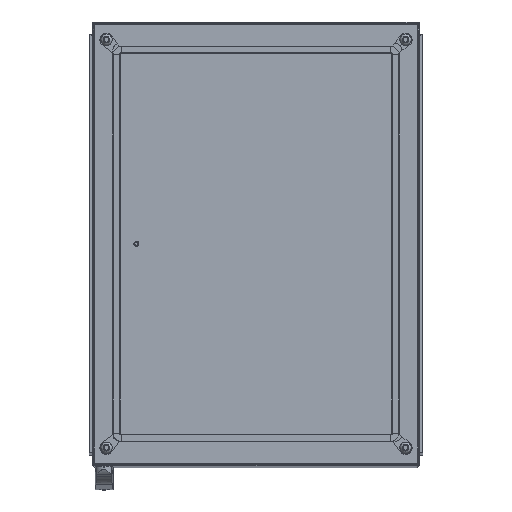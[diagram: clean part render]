
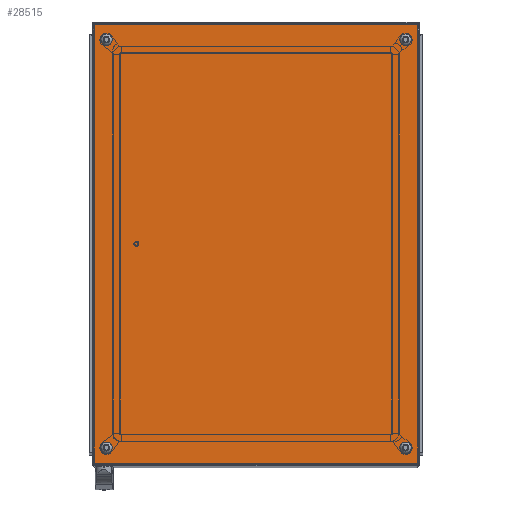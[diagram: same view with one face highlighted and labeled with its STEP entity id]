
A CAD part, top view. The second image highlights one B-rep face of the part: STEP entity #28515.
In plain terms, the highlighted planar face has unit normal (0, 0, 1).
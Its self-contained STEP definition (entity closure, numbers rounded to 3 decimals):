
#1393=CIRCLE('',#30596,6.);
#1394=CIRCLE('',#30597,6.);
#1395=CIRCLE('',#30598,6.);
#1396=CIRCLE('',#30599,6.);
#5245=ORIENTED_EDGE('',*,*,#12095,.F.);
#5246=ORIENTED_EDGE('',*,*,#12096,.F.);
#5247=ORIENTED_EDGE('',*,*,#12097,.F.);
#5248=ORIENTED_EDGE('',*,*,#12098,.F.);
#5249=ORIENTED_EDGE('',*,*,#12084,.T.);
#5250=ORIENTED_EDGE('',*,*,#12092,.T.);
#5251=ORIENTED_EDGE('',*,*,#12055,.F.);
#5252=ORIENTED_EDGE('',*,*,#12099,.F.);
#12055=EDGE_CURVE('',#15715,#15716,#18567,.T.);
#12084=EDGE_CURVE('',#15737,#15736,#18573,.T.);
#12092=EDGE_CURVE('',#15736,#15716,#18578,.T.);
#12095=EDGE_CURVE('',#15738,#15738,#1393,.T.);
#12096=EDGE_CURVE('',#15739,#15739,#1394,.T.);
#12097=EDGE_CURVE('',#15740,#15740,#1395,.T.);
#12098=EDGE_CURVE('',#15741,#15741,#1396,.T.);
#12099=EDGE_CURVE('',#15737,#15715,#18581,.T.);
#15715=VERTEX_POINT('',#44399);
#15716=VERTEX_POINT('',#44401);
#15736=VERTEX_POINT('',#44475);
#15737=VERTEX_POINT('',#44477);
#15738=VERTEX_POINT('',#44494);
#15739=VERTEX_POINT('',#44496);
#15740=VERTEX_POINT('',#44498);
#15741=VERTEX_POINT('',#44500);
#18567=LINE('',#44400,#21044);
#18573=LINE('',#44476,#21050);
#18578=LINE('',#44488,#21055);
#18581=LINE('',#44501,#21058);
#21044=VECTOR('',#35558,1000.);
#21050=VECTOR('',#35612,1000.);
#21055=VECTOR('',#35629,1000.);
#21058=VECTOR('',#35644,1000.);
#23219=EDGE_LOOP('',(#5245));
#23220=EDGE_LOOP('',(#5246));
#23221=EDGE_LOOP('',(#5247));
#23222=EDGE_LOOP('',(#5248));
#23223=EDGE_LOOP('',(#5249,#5250,#5251,#5252));
#25566=FACE_BOUND('',#23219,.T.);
#25567=FACE_BOUND('',#23220,.T.);
#25568=FACE_BOUND('',#23221,.T.);
#25569=FACE_BOUND('',#23222,.T.);
#25570=FACE_BOUND('',#23223,.T.);
#27570=PLANE('',#30595);
#28515=ADVANCED_FACE('',(#25566,#25567,#25568,#25569,#25570),#27570,.T.);
#30595=AXIS2_PLACEMENT_3D('',#44492,#35634,#35635);
#30596=AXIS2_PLACEMENT_3D('',#44493,#35636,#35637);
#30597=AXIS2_PLACEMENT_3D('',#44495,#35638,#35639);
#30598=AXIS2_PLACEMENT_3D('',#44497,#35640,#35641);
#30599=AXIS2_PLACEMENT_3D('',#44499,#35642,#35643);
#35558=DIRECTION('',(-1.,0.,0.));
#35612=DIRECTION('',(-1.,0.,0.));
#35629=DIRECTION('',(0.,-1.,0.));
#35634=DIRECTION('',(0.,0.,1.));
#35635=DIRECTION('',(1.,0.,0.));
#35636=DIRECTION('',(0.,0.,1.));
#35637=DIRECTION('',(1.,0.,0.));
#35638=DIRECTION('',(0.,0.,1.));
#35639=DIRECTION('',(1.,0.,0.));
#35640=DIRECTION('',(0.,0.,1.));
#35641=DIRECTION('',(1.,0.,0.));
#35642=DIRECTION('',(0.,0.,1.));
#35643=DIRECTION('',(1.,0.,0.));
#35644=DIRECTION('',(0.,-1.,0.));
#44399=CARTESIAN_POINT('',(296.5,-402.5,20.));
#44400=CARTESIAN_POINT('',(300.,-402.5,20.));
#44401=CARTESIAN_POINT('',(-296.5,-402.5,20.));
#44475=CARTESIAN_POINT('',(-296.5,402.5,20.));
#44476=CARTESIAN_POINT('',(300.,402.5,20.));
#44477=CARTESIAN_POINT('',(296.5,402.5,20.));
#44488=CARTESIAN_POINT('',(-296.5,405.5,20.));
#44492=CARTESIAN_POINT('',(-296.5,-402.5,20.));
#44493=CARTESIAN_POINT('',(274.5,-374.5,20.));
#44494=CARTESIAN_POINT('',(280.5,-374.5,20.));
#44495=CARTESIAN_POINT('',(-274.5,374.5,20.));
#44496=CARTESIAN_POINT('',(-268.5,374.5,20.));
#44497=CARTESIAN_POINT('',(274.5,374.5,20.));
#44498=CARTESIAN_POINT('',(280.5,374.5,20.));
#44499=CARTESIAN_POINT('',(-274.5,-374.5,20.));
#44500=CARTESIAN_POINT('',(-268.5,-374.5,20.));
#44501=CARTESIAN_POINT('',(296.5,405.5,20.));
